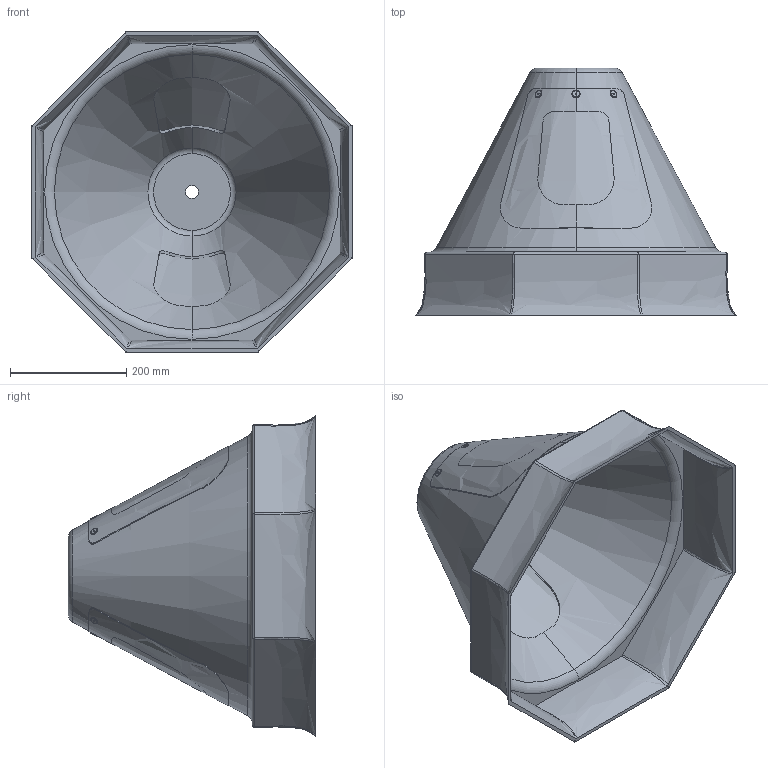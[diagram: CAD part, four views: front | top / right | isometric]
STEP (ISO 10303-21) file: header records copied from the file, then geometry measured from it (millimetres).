
FILE_DESCRIPTION (( 'STEP AP214' ), '1' );
FILE_NAME ('0000002124.STEP', '2015-05-04T06:47:28', ( 'HP' ), ( 'Hewlett-Packard Company' ), 'SwSTEP 2.0', 'SolidWorks 2014', '' );
FILE_SCHEMA (( 'AUTOMOTIVE_DESIGN' ));
Length unit declared in the file: millimetre
Products named in the file (3): 0000002116; 0000002124; 0000002123
Assembly tree (3 placements, depth 2):
  0000002124
    0000002123
    0000002116  x2
Bounding box: 550 x 425 x 550 mm (x, y, z)
Volume: 2325067.1 mm3; surface area: 1392121.6 mm2
Topology: 10 solids, 10 shells, 140 faces, 358 edges, 236 vertices
Faces by surface type: cylinder 46, plane 34, bspline 32, torus 20, cone 8
Entity records: 9035 total; most frequent: CARTESIAN_POINT 6388, ORIENTED_EDGE 578, DIRECTION 399, EDGE_CURVE 289, VERTEX_POINT 190, AXIS2_PLACEMENT_3D 161, B_SPLINE_CURVE_WITH_KNOTS 126, EDGE_LOOP 123
